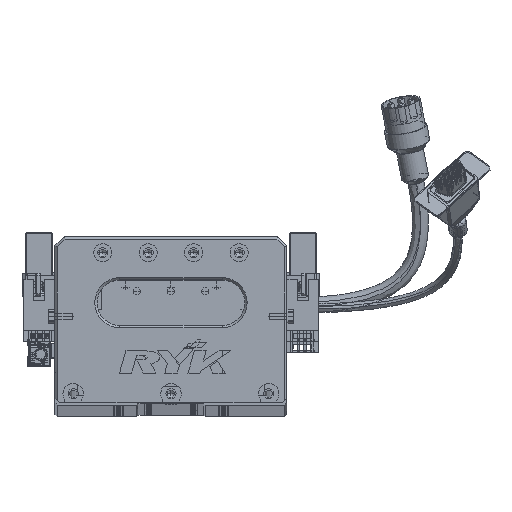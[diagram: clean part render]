
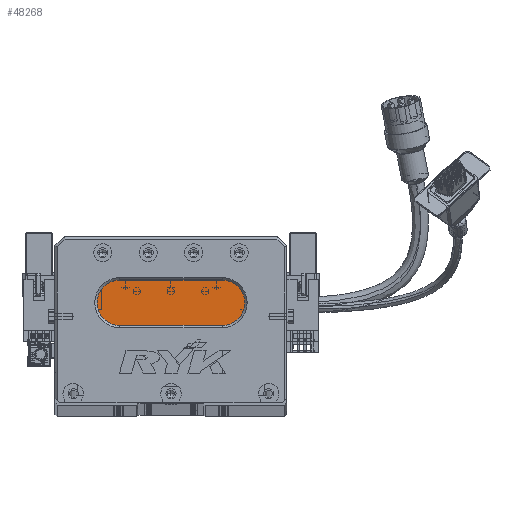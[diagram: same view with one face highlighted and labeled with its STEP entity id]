
A CAD part, top view. The second image highlights one B-rep face of the part: STEP entity #48268.
In plain terms, the highlighted planar face has unit normal (0, 0, 1) as drawn and (0, 0, -1) by its records, which use the part's own axes.
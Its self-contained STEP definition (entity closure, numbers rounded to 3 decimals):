
#2067 = AXIS2_PLACEMENT_3D ( 'NONE', #86662, #45954, #38115 ) ;
#2361 = CIRCLE ( 'NONE', #2067, 10. ) ;
#4119 = VERTEX_POINT ( 'NONE', #28631 ) ;
#5310 = LINE ( 'NONE', #37411, #32291 ) ;
#8432 = CARTESIAN_POINT ( 'NONE',  ( 28.5, 44., 13. ) ) ;
#8647 = EDGE_CURVE ( 'NONE', #36934, #38521, #2361, .T. ) ;
#12178 = AXIS2_PLACEMENT_3D ( 'NONE', #62084, #27435, #34365 ) ;
#13081 = VERTEX_POINT ( 'NONE', #69241 ) ;
#13861 = ORIENTED_EDGE ( 'NONE', *, *, #29709, .T. ) ;
#13882 = VERTEX_POINT ( 'NONE', #15692 ) ;
#15692 = CARTESIAN_POINT ( 'NONE',  ( 28.5, 54., 13. ) ) ;
#22088 = DIRECTION ( 'NONE',  ( 0., 0., -1. ) ) ;
#23822 = DIRECTION ( 'NONE',  ( -1., 0., 0. ) ) ;
#25209 = CARTESIAN_POINT ( 'NONE',  ( 73.5, 54., 13. ) ) ;
#27435 = DIRECTION ( 'NONE',  ( 0., 0., -1. ) ) ;
#27878 = AXIS2_PLACEMENT_3D ( 'NONE', #63420, #22088, #70378 ) ;
#28631 = CARTESIAN_POINT ( 'NONE',  ( 28.5, 34., 13. ) ) ;
#29709 = EDGE_CURVE ( 'NONE', #13081, #13882, #31477, .T. ) ;
#31477 = CIRCLE ( 'NONE', #12178, 10. ) ;
#32291 = VECTOR ( 'NONE', #23822, 1000. ) ;
#34365 = DIRECTION ( 'NONE',  ( -1., 0., 0. ) ) ;
#35288 = DIRECTION ( 'NONE',  ( 0., 0., -1. ) ) ;
#35911 = EDGE_LOOP ( 'NONE', ( #68260, #67444, #43300, #13861, #73390 ) ) ;
#36934 = VERTEX_POINT ( 'NONE', #25209 ) ;
#37411 = CARTESIAN_POINT ( 'NONE',  ( 73.5, 34., 13. ) ) ;
#38115 = DIRECTION ( 'NONE',  ( -1., 0., 0. ) ) ;
#38521 = VERTEX_POINT ( 'NONE', #85295 ) ;
#40944 = DIRECTION ( 'NONE',  ( 1., 0., 0. ) ) ;
#43300 = ORIENTED_EDGE ( 'NONE', *, *, #79329, .T. ) ;
#45954 = DIRECTION ( 'NONE',  ( 0., 0., -1. ) ) ;
#47117 = LINE ( 'NONE', #82834, #74071 ) ;
#48268 = ADVANCED_FACE ( 'NONE', ( #61274 ), #48693, .T. ) ;
#48693 = PLANE ( 'NONE',  #27878 ) ;
#61274 = FACE_OUTER_BOUND ( 'NONE', #35911, .T. ) ;
#62084 = CARTESIAN_POINT ( 'NONE',  ( 28.5, 44., 13. ) ) ;
#63420 = CARTESIAN_POINT ( 'NONE',  ( 73.5, 44., 13. ) ) ;
#65111 = CIRCLE ( 'NONE', #76450, 10. ) ;
#67444 = ORIENTED_EDGE ( 'NONE', *, *, #82939, .T. ) ;
#68260 = ORIENTED_EDGE ( 'NONE', *, *, #8647, .T. ) ;
#69241 = CARTESIAN_POINT ( 'NONE',  ( 18.5, 44., 13. ) ) ;
#70378 = DIRECTION ( 'NONE',  ( -1., 0., 0. ) ) ;
#72513 = EDGE_CURVE ( 'NONE', #13882, #36934, #47117, .T. ) ;
#73390 = ORIENTED_EDGE ( 'NONE', *, *, #72513, .T. ) ;
#74071 = VECTOR ( 'NONE', #40944, 1000. ) ;
#76450 = AXIS2_PLACEMENT_3D ( 'NONE', #8432, #35288, #84422 ) ;
#79329 = EDGE_CURVE ( 'NONE', #4119, #13081, #65111, .T. ) ;
#82834 = CARTESIAN_POINT ( 'NONE',  ( 73.5, 54., 13. ) ) ;
#82939 = EDGE_CURVE ( 'NONE', #38521, #4119, #5310, .T. ) ;
#84422 = DIRECTION ( 'NONE',  ( -1., 0., 0. ) ) ;
#85295 = CARTESIAN_POINT ( 'NONE',  ( 73.5, 34., 13. ) ) ;
#86662 = CARTESIAN_POINT ( 'NONE',  ( 73.5, 44., 13. ) ) ;
